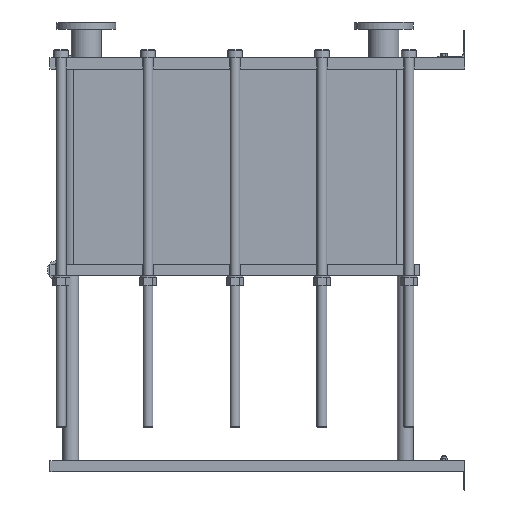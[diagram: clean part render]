
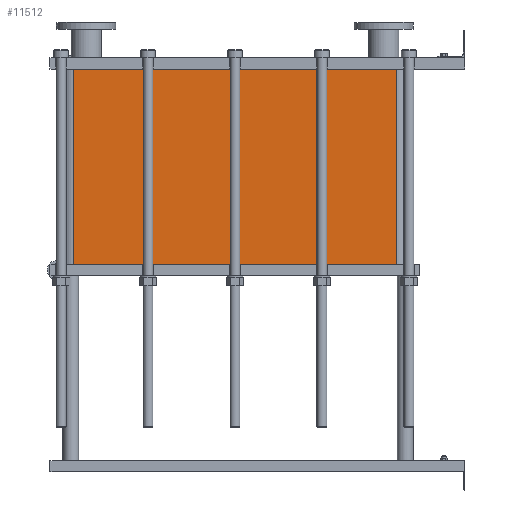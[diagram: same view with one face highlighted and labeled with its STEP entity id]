
A CAD part, left-side view. The second image highlights one B-rep face of the part: STEP entity #11512.
In plain terms, the highlighted planar face has unit normal (-1, 0, 0).
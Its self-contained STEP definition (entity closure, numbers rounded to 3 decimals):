
#1129=LINE('',#23232,#2102);
#1130=LINE('',#23236,#2103);
#1131=LINE('',#23238,#2104);
#1132=LINE('',#23239,#2105);
#2102=VECTOR('',#15887,10.);
#2103=VECTOR('',#15892,10.);
#2104=VECTOR('',#15893,10.);
#2105=VECTOR('',#15894,10.);
#3267=FACE_OUTER_BOUND('',#4093,.T.);
#4093=EDGE_LOOP('',(#10103,#10104,#10105,#10106));
#5642=VERTEX_POINT('',#23229);
#5643=VERTEX_POINT('',#23231);
#5644=VERTEX_POINT('',#23235);
#5645=VERTEX_POINT('',#23237);
#7159=EDGE_CURVE('',#5643,#5642,#1129,.T.);
#7161=EDGE_CURVE('',#5642,#5644,#1130,.T.);
#7162=EDGE_CURVE('',#5645,#5644,#1131,.T.);
#7163=EDGE_CURVE('',#5645,#5643,#1132,.T.);
#10103=ORIENTED_EDGE('',*,*,#7161,.T.);
#10104=ORIENTED_EDGE('',*,*,#7162,.F.);
#10105=ORIENTED_EDGE('',*,*,#7163,.T.);
#10106=ORIENTED_EDGE('',*,*,#7159,.T.);
#10857=PLANE('',#12751);
#11512=ADVANCED_FACE('',(#3267),#10857,.T.);
#12751=AXIS2_PLACEMENT_3D('',#23234,#15890,#15891);
#15887=DIRECTION('',(0.,0.,-1.));
#15890=DIRECTION('center_axis',(-1.,0.,0.));
#15891=DIRECTION('ref_axis',(0.,1.,0.));
#15892=DIRECTION('',(0.,-1.,0.));
#15893=DIRECTION('',(0.,0.,-1.));
#15894=DIRECTION('',(0.,1.,0.));
#23229=CARTESIAN_POINT('',(-200.,1414.,-707.25));
#23231=CARTESIAN_POINT('',(-200.,1414.,0.));
#23232=CARTESIAN_POINT('',(-200.,1414.,0.));
#23234=CARTESIAN_POINT('Origin',(-200.,248.,0.));
#23235=CARTESIAN_POINT('',(-200.,248.,-707.25));
#23236=CARTESIAN_POINT('',(-200.,539.5,-707.25));
#23237=CARTESIAN_POINT('',(-200.,248.,0.));
#23238=CARTESIAN_POINT('',(-200.,248.,0.));
#23239=CARTESIAN_POINT('',(-200.,248.,0.));
